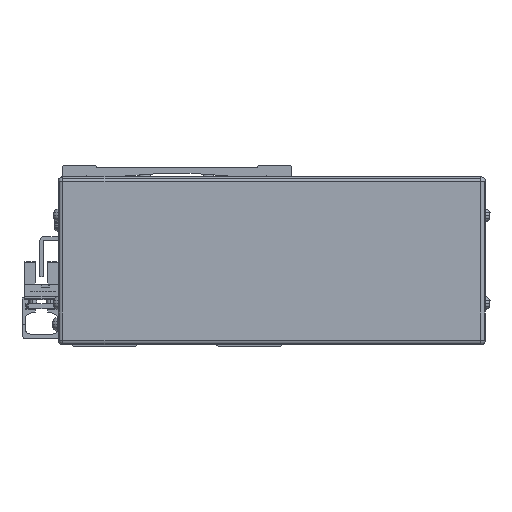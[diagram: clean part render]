
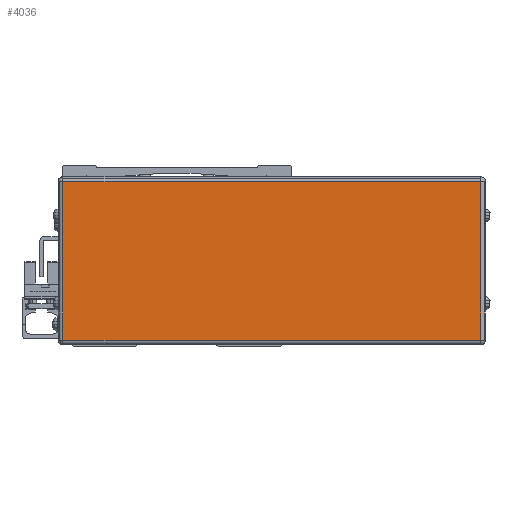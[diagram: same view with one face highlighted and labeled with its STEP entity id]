
A CAD part, front view. The second image highlights one B-rep face of the part: STEP entity #4036.
In plain terms, the highlighted planar face has unit normal (0, -1, 0).
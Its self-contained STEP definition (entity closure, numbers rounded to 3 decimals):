
#4036=ADVANCED_FACE('',(#9860),#9861,.T.);
#9860=FACE_OUTER_BOUND('',#18586,.T.);
#9861=PLANE('',#18587);
#18586=EDGE_LOOP('',(#31124,#31125,#31126,#31127));
#18587=AXIS2_PLACEMENT_3D('',#31128,#31129,#31130);
#31124=ORIENTED_EDGE('',*,*,#50248,.F.);
#31125=ORIENTED_EDGE('',*,*,#49583,.F.);
#31126=ORIENTED_EDGE('',*,*,#51842,.F.);
#31127=ORIENTED_EDGE('',*,*,#50081,.F.);
#31128=CARTESIAN_POINT('',(39.,-388.778,-42.5));
#31129=DIRECTION('',(0.0,-1.0,0.0));
#31130=DIRECTION('',(1.0,0.0,0.0));
#49583=EDGE_CURVE('',#59713,#59715,#59716,.T.);
#50081=EDGE_CURVE('',#60565,#58585,#60567,.T.);
#50248=EDGE_CURVE('',#59715,#60565,#60862,.T.);
#51842=EDGE_CURVE('',#58585,#59713,#63452,.T.);
#58585=VERTEX_POINT('',#72439);
#59713=VERTEX_POINT('',#74074);
#59715=VERTEX_POINT('',#74076);
#59716=LINE('',#74077,#74078);
#60565=VERTEX_POINT('',#75300);
#60567=LINE('',#75302,#75303);
#60862=LINE('',#75712,#75713);
#63452=LINE('',#79610,#79611);
#72439=CARTESIAN_POINT('',(-46.7,-388.778,24.5));
#74074=CARTESIAN_POINT('',(124.7,-388.778,24.5));
#74076=CARTESIAN_POINT('',(124.7,-388.778,-40.5));
#74077=CARTESIAN_POINT('',(124.7,-388.778,-42.5));
#74078=VECTOR('',#91714,10.0);
#75300=CARTESIAN_POINT('',(-46.7,-388.778,-40.5));
#75302=CARTESIAN_POINT('',(-46.7,-388.778,-42.5));
#75303=VECTOR('',#92331,10.0);
#75712=CARTESIAN_POINT('',(39.,-388.778,-40.5));
#75713=VECTOR('',#92600,10.0);
#79610=CARTESIAN_POINT('',(39.,-388.778,24.5));
#79611=VECTOR('',#94706,10.0);
#91714=DIRECTION('',(0.0,0.0,-1.0));
#92331=DIRECTION('',(0.0,0.0,1.0));
#92600=DIRECTION('',(-1.0,0.0,0.0));
#94706=DIRECTION('',(1.0,0.0,0.0));
